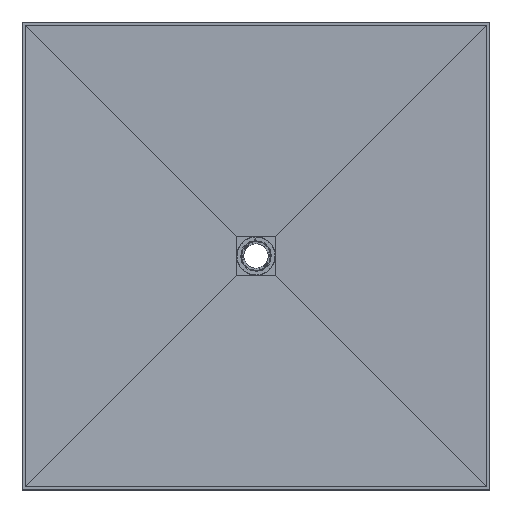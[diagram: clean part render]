
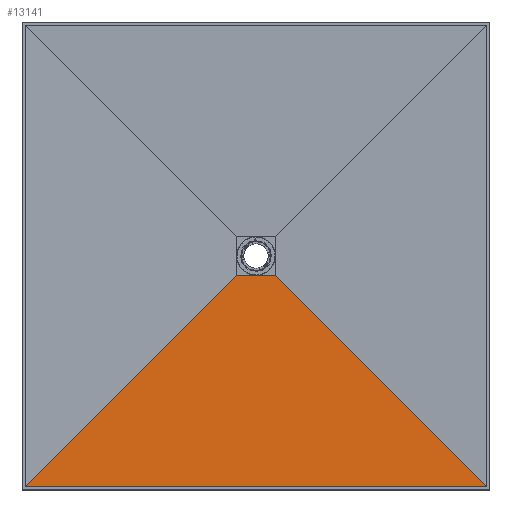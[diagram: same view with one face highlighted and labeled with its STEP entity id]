
A CAD part, top view. The second image highlights one B-rep face of the part: STEP entity #13141.
In plain terms, the highlighted planar face has unit normal (0, 0.021, 1).
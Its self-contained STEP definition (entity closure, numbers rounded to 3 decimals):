
#2349=FACE_OUTER_BOUND('',#3094,.T.);
#3094=EDGE_LOOP('',(#8812,#8813,#8814,#8815));
#3903=LINE('',#18664,#4524);
#3907=LINE('',#18673,#4528);
#3911=LINE('',#18679,#4532);
#3912=LINE('',#18681,#4533);
#4524=VECTOR('',#15363,10.);
#4528=VECTOR('',#15369,10.);
#4532=VECTOR('',#15377,10.);
#4533=VECTOR('',#15380,10.);
#5140=VERTEX_POINT('',#18661);
#5141=VERTEX_POINT('',#18663);
#5144=VERTEX_POINT('',#18670);
#5145=VERTEX_POINT('',#18672);
#6606=EDGE_CURVE('',#5140,#5141,#3903,.F.);
#6610=EDGE_CURVE('',#5145,#5144,#3907,.F.);
#6614=EDGE_CURVE('',#5140,#5145,#3911,.T.);
#6615=EDGE_CURVE('',#5141,#5144,#3912,.T.);
#8812=ORIENTED_EDGE('',*,*,#6606,.F.);
#8813=ORIENTED_EDGE('',*,*,#6614,.T.);
#8814=ORIENTED_EDGE('',*,*,#6610,.T.);
#8815=ORIENTED_EDGE('',*,*,#6615,.F.);
#13071=PLANE('',#13979);
#13141=ADVANCED_FACE('',(#2349),#13071,.F.);
#13979=AXIS2_PLACEMENT_3D('',#18680,#15378,#15379);
#15363=DIRECTION('',(1.,0.,0.));
#15369=DIRECTION('',(1.,0.,0.));
#15377=DIRECTION('',(-0.707,0.707,-0.015));
#15378=DIRECTION('center_axis',(0.,-0.021,
-1.));
#15379=DIRECTION('ref_axis',(-1.,0.,0.));
#15380=DIRECTION('',(0.707,0.707,-0.015));
#18661=CARTESIAN_POINT('',(901.087,-1122.287,20.));
#18663=CARTESIAN_POINT('',(-902.287,-1122.287,20.));
#18664=CARTESIAN_POINT('',(450.55,-1122.287,20.));
#18670=CARTESIAN_POINT('',(-77.087,-297.087,2.5));
#18672=CARTESIAN_POINT('',(75.887,-297.087,2.5));
#18673=CARTESIAN_POINT('',(450.25,-297.087,2.5));
#18679=CARTESIAN_POINT('',(450.338,-671.538,10.441));
#18680=CARTESIAN_POINT('Origin',(901.1,-1122.273,20.));
#18681=CARTESIAN_POINT('',(-451.538,-671.538,10.441));
